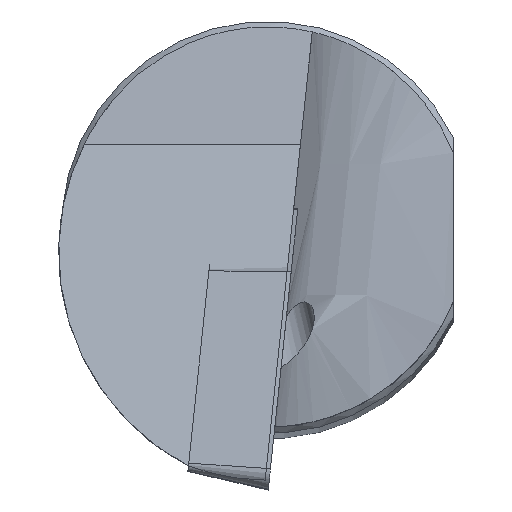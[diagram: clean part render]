
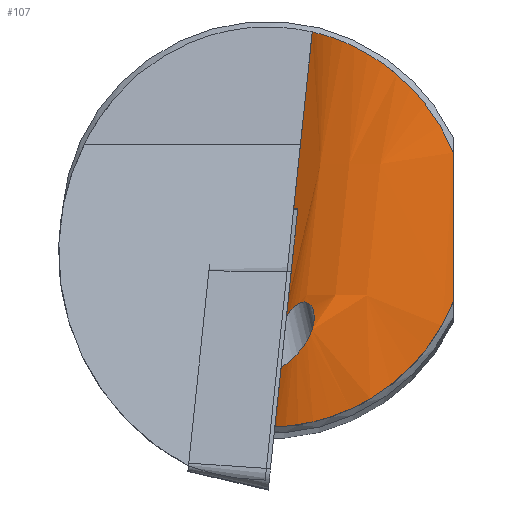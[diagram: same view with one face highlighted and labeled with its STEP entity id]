
A CAD part, top view. The second image highlights one B-rep face of the part: STEP entity #107.
In plain terms, the highlighted free-form (B-spline) face has degree [3, 3] with [4, 16] control points.
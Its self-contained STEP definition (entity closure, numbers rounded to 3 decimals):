
#23=B_SPLINE_SURFACE_WITH_KNOTS('',3,3,((#717,#718,#719,#720,#721,#722,
#723,#724,#725,#726,#727,#728,#729,#730,#731,#732),(#733,#734,#735,#736,
#737,#738,#739,#740,#741,#742,#743,#744,#745,#746,#747,#748),(#749,#750,
#751,#752,#753,#754,#755,#756,#757,#758,#759,#760,#761,#762,#763,#764),
(#765,#766,#767,#768,#769,#770,#771,#772,#773,#774,#775,#776,#777,#778,
#779,#780)),.UNSPECIFIED.,.F.,.F.,.F.,(4,4),(4,1,2,1,1,2,1,1,2,1,4),(0.,
1.),(0.,0.14,0.25,0.28,0.42,0.5,0.56,0.707,0.75,0.853,
1.),.UNSPECIFIED.);
#45=B_SPLINE_CURVE_WITH_KNOTS('',3,(#633,#634,#635,#636,#637,#638,#639,
#640),.UNSPECIFIED.,.F.,.F.,(4,2,2,4),(0.,0.25,0.5,1.),.UNSPECIFIED.);
#46=B_SPLINE_CURVE_WITH_KNOTS('',3,(#648,#649,#650,#651,#652,#653,#654,
#655,#656,#657),.UNSPECIFIED.,.F.,.F.,(4,2,2,2,4),(0.,0.25,0.5,0.75,1.),
 .UNSPECIFIED.);
#51=B_SPLINE_CURVE_WITH_KNOTS('',3,(#697,#698,#699,#700,#701,#702,#703,
#704,#705,#706,#707,#708,#709,#710,#711,#712),.UNSPECIFIED.,.F.,.F.,(4,
2,2,2,2,2,2,4),(0.,0.25,0.375,0.5,
0.562,0.625,0.75,1.),.UNSPECIFIED.);
#52=B_SPLINE_CURVE_WITH_KNOTS('',3,(#713,#714,#715,#716),.UNSPECIFIED.,
 .F.,.F.,(4,4),(0.,1.),.UNSPECIFIED.);
#107=ADVANCED_FACE('',(#141),#23,.T.);
#141=FACE_OUTER_BOUND('',#162,.T.);
#162=EDGE_LOOP('',(#250,#251,#252,#253,#254,#255));
#250=ORIENTED_EDGE('',*,*,#358,.F.);
#251=ORIENTED_EDGE('',*,*,#355,.T.);
#252=ORIENTED_EDGE('',*,*,#344,.T.);
#253=ORIENTED_EDGE('',*,*,#359,.F.);
#254=ORIENTED_EDGE('',*,*,#340,.T.);
#255=ORIENTED_EDGE('',*,*,#357,.T.);
#294=VERTEX_POINT('',#630);
#295=VERTEX_POINT('',#632);
#296=VERTEX_POINT('',#641);
#299=VERTEX_POINT('',#647);
#306=VERTEX_POINT('',#692);
#307=VERTEX_POINT('',#694);
#340=EDGE_CURVE('',#296,#295,#45,.T.);
#344=EDGE_CURVE('',#294,#299,#46,.T.);
#355=EDGE_CURVE('',#306,#294,#385,.T.);
#357=EDGE_CURVE('',#295,#307,#386,.T.);
#358=EDGE_CURVE('',#306,#307,#51,.T.);
#359=EDGE_CURVE('',#296,#299,#52,.T.);
#385=LINE('',#691,#410);
#386=LINE('',#695,#411);
#410=VECTOR('',#537,1.);
#411=VECTOR('',#540,1.);
#537=DIRECTION('',(-0.105,-0.995,0.));
#540=DIRECTION('',(-0.105,-0.995,0.));
#630=CARTESIAN_POINT('',(0.147,-9.699,-15.5));
#632=CARTESIAN_POINT('',(2.16,9.456,-15.5));
#633=CARTESIAN_POINT('',(9.,3.618,-23.7));
#634=CARTESIAN_POINT('',(8.587,4.646,-23.57));
#635=CARTESIAN_POINT('',(7.988,5.602,-23.35));
#636=CARTESIAN_POINT('',(6.606,7.18,-22.583));
#637=CARTESIAN_POINT('',(5.819,7.809,-22.032));
#638=CARTESIAN_POINT('',(3.62,9.162,-19.836));
#639=CARTESIAN_POINT('',(2.492,9.381,-17.739));
#640=CARTESIAN_POINT('',(2.16,9.456,-15.5));
#641=CARTESIAN_POINT('',(9.,3.618,-23.7));
#647=CARTESIAN_POINT('',(9.,-3.618,-23.86));
#648=CARTESIAN_POINT('',(0.147,-9.699,-15.5));
#649=CARTESIAN_POINT('',(0.343,-9.696,-16.789));
#650=CARTESIAN_POINT('',(0.789,-9.691,-18.024));
#651=CARTESIAN_POINT('',(2.125,-9.488,-20.223));
#652=CARTESIAN_POINT('',(3.023,-9.278,-21.185));
#653=CARTESIAN_POINT('',(4.964,-8.401,-22.617));
#654=CARTESIAN_POINT('',(6.007,-7.721,-23.1));
#655=CARTESIAN_POINT('',(7.787,-5.921,-23.683));
#656=CARTESIAN_POINT('',(8.519,-4.815,-23.8));
#657=CARTESIAN_POINT('',(9.,-3.618,-23.86));
#691=CARTESIAN_POINT('',(-0.126,-12.299,-15.5));
#692=CARTESIAN_POINT('',(0.437,-6.939,-15.5));
#694=CARTESIAN_POINT('',(0.64,-5.012,-15.5));
#695=CARTESIAN_POINT('',(-0.126,-12.299,-15.5));
#697=CARTESIAN_POINT('',(0.437,-6.939,-15.5));
#698=CARTESIAN_POINT('',(0.577,-6.869,-16.373));
#699=CARTESIAN_POINT('',(0.84,-6.726,-17.204));
#700=CARTESIAN_POINT('',(1.371,-6.241,-18.325));
#701=CARTESIAN_POINT('',(1.571,-6.032,-18.672));
#702=CARTESIAN_POINT('',(1.953,-5.477,-19.239));
#703=CARTESIAN_POINT('',(2.152,-5.111,-19.481));
#704=CARTESIAN_POINT('',(2.268,-4.461,-19.553));
#705=CARTESIAN_POINT('',(2.268,-4.221,-19.517));
#706=CARTESIAN_POINT('',(2.158,-3.853,-19.285));
#707=CARTESIAN_POINT('',(2.056,-3.738,-19.102));
#708=CARTESIAN_POINT('',(1.747,-3.577,-18.524));
#709=CARTESIAN_POINT('',(1.545,-3.664,-18.118));
#710=CARTESIAN_POINT('',(1.035,-4.05,-16.947));
#711=CARTESIAN_POINT('',(0.801,-4.507,-16.213));
#712=CARTESIAN_POINT('',(0.64,-5.012,-15.5));
#713=CARTESIAN_POINT('',(9.,3.618,-23.7));
#714=CARTESIAN_POINT('',(9.,1.206,-23.764));
#715=CARTESIAN_POINT('',(9.,-1.206,-23.817));
#716=CARTESIAN_POINT('',(9.,-3.618,-23.86));
#717=CARTESIAN_POINT('',(2.434,12.057,-15.5));
#718=CARTESIAN_POINT('',(2.524,12.057,-16.095));
#719=CARTESIAN_POINT('',(2.789,12.057,-17.18));
#720=CARTESIAN_POINT('',(3.252,12.057,-18.248));
#721=CARTESIAN_POINT('',(3.563,12.057,-18.83));
#722=CARTESIAN_POINT('',(3.957,12.057,-19.532));
#723=CARTESIAN_POINT('',(4.674,12.057,-20.511));
#724=CARTESIAN_POINT('',(5.437,12.057,-21.266));
#725=CARTESIAN_POINT('',(5.95,12.057,-21.715));
#726=CARTESIAN_POINT('',(6.737,12.057,-22.345));
#727=CARTESIAN_POINT('',(7.791,12.057,-22.954));
#728=CARTESIAN_POINT('',(8.625,12.057,-23.296));
#729=CARTESIAN_POINT('',(9.273,12.057,-23.538));
#730=CARTESIAN_POINT('',(10.391,12.057,-23.863));
#731=CARTESIAN_POINT('',(11.503,12.057,-23.988));
#732=CARTESIAN_POINT('',(12.134,12.057,-24.));
#733=CARTESIAN_POINT('',(1.58,3.938,-15.5));
#734=CARTESIAN_POINT('',(1.67,3.938,-16.095));
#735=CARTESIAN_POINT('',(1.936,3.938,-17.18));
#736=CARTESIAN_POINT('',(2.399,3.938,-18.248));
#737=CARTESIAN_POINT('',(2.709,3.938,-18.83));
#738=CARTESIAN_POINT('',(3.103,3.938,-19.532));
#739=CARTESIAN_POINT('',(3.82,3.938,-20.511));
#740=CARTESIAN_POINT('',(4.584,3.938,-21.266));
#741=CARTESIAN_POINT('',(5.097,3.938,-21.715));
#742=CARTESIAN_POINT('',(5.884,3.938,-22.345));
#743=CARTESIAN_POINT('',(6.938,3.938,-22.954));
#744=CARTESIAN_POINT('',(7.772,3.938,-23.296));
#745=CARTESIAN_POINT('',(8.419,3.938,-23.538));
#746=CARTESIAN_POINT('',(9.538,3.938,-23.863));
#747=CARTESIAN_POINT('',(10.65,3.938,-23.988));
#748=CARTESIAN_POINT('',(11.28,3.938,-24.));
#749=CARTESIAN_POINT('',(0.727,-4.181,-15.5));
#750=CARTESIAN_POINT('',(0.817,-4.181,-16.095));
#751=CARTESIAN_POINT('',(1.082,-4.181,-17.18));
#752=CARTESIAN_POINT('',(1.545,-4.181,-18.248));
#753=CARTESIAN_POINT('',(1.856,-4.181,-18.83));
#754=CARTESIAN_POINT('',(2.25,-4.181,-19.532));
#755=CARTESIAN_POINT('',(2.967,-4.181,-20.511));
#756=CARTESIAN_POINT('',(3.73,-4.181,-21.266));
#757=CARTESIAN_POINT('',(4.243,-4.181,-21.715));
#758=CARTESIAN_POINT('',(5.031,-4.181,-22.345));
#759=CARTESIAN_POINT('',(6.084,-4.181,-22.954));
#760=CARTESIAN_POINT('',(6.918,-4.181,-23.296));
#761=CARTESIAN_POINT('',(7.566,-4.181,-23.538));
#762=CARTESIAN_POINT('',(8.684,-4.181,-23.863));
#763=CARTESIAN_POINT('',(9.797,-4.181,-23.988));
#764=CARTESIAN_POINT('',(10.427,-4.181,-24.));
#765=CARTESIAN_POINT('',(-0.126,-12.299,-15.5));
#766=CARTESIAN_POINT('',(-0.036,-12.299,-16.095));
#767=CARTESIAN_POINT('',(0.229,-12.299,-17.18));
#768=CARTESIAN_POINT('',(0.692,-12.299,-18.248));
#769=CARTESIAN_POINT('',(1.003,-12.299,-18.83));
#770=CARTESIAN_POINT('',(1.397,-12.299,-19.532));
#771=CARTESIAN_POINT('',(2.114,-12.299,-20.511));
#772=CARTESIAN_POINT('',(2.877,-12.299,-21.266));
#773=CARTESIAN_POINT('',(3.39,-12.299,-21.715));
#774=CARTESIAN_POINT('',(4.177,-12.299,-22.345));
#775=CARTESIAN_POINT('',(5.231,-12.299,-22.954));
#776=CARTESIAN_POINT('',(6.065,-12.299,-23.296));
#777=CARTESIAN_POINT('',(6.713,-12.299,-23.538));
#778=CARTESIAN_POINT('',(7.831,-12.299,-23.863));
#779=CARTESIAN_POINT('',(8.943,-12.299,-23.988));
#780=CARTESIAN_POINT('',(9.574,-12.299,-24.));
